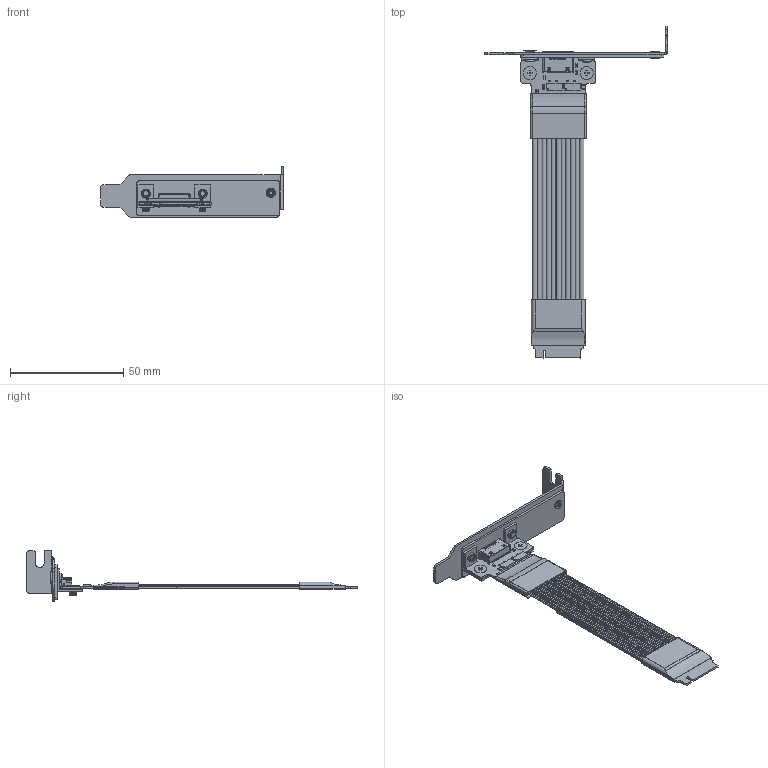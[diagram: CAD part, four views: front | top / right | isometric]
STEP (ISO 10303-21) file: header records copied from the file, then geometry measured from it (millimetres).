
FILE_DESCRIPTION(('Open CASCADE Model'),'2;1');
FILE_NAME('Open CASCADE Shape Model','2025-10-22T09:36:10',('Author'),( 'Open CASCADE'),'Open CASCADE STEP processor 7.5','Open CASCADE 7.5' ,'Unknown');
FILE_SCHEMA(('AUTOMOTIVE_DESIGN { 1 0 10303 214 1 1 1 1 }'));
Length unit declared in the file: millimetre
Products named in the file (301): PCB; Board; Open CASCADE STEP translator 7.5 2.1.1; R1; 0603_RES; Capsule; Encapsulation; TopCover; C14; C0603_060; C13; CN1; OcuLinkĸع; U2; 9392793296; Open CASCADE STEP translator 7.5 4.1; Body; Open CASCADE STEP translator 7.5 4.2.1; ball; U1; R6; R0201 AC0201; R5; R4; R3; R2; D1; User Library-SOD523F; C26; C0201_020; C25; C24; C23; C22; C21; C20; C19; C18; C17; C16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
Assembly tree (443 placements, depth 5):
  PCB
    Board
      Open CASCADE STEP translator 7.5 2.1.1
    R1
      0603_RES
        Capsule
        Encapsulation  x2
        TopCover
    C14
      C0603_060
      C0603_060
      C0603_060
    C13
      C0603_060
      C0603_060
      C0603_060
    CN1
      OcuLinkĸع  x2
      OcuLinkĸع
    U2
      9392793296
        Open CASCADE STEP translator 7.5 4.1
        Body
          Open CASCADE STEP translator 7.5 4.2.1
        ball  x49
    U1
      9392793296
        Open CASCADE STEP translator 7.5 4.1
        Body
          Open CASCADE STEP translator 7.5 4.2.1
        ball  x49
    R6
      R0201 AC0201
      R0201 AC0201
      R0201 AC0201
      R0201 AC0201
    R5
      R0201 AC0201
      R0201 AC0201
      R0201 AC0201
      R0201 AC0201
    R4
      R0201 AC0201
      R0201 AC0201
      R0201 AC0201
      R0201 AC0201
    R3
      R0201 AC0201
      R0201 AC0201
      R0201 AC0201
      R0201 AC0201
    R2
      R0201 AC0201
      R0201 AC0201
      R0201 AC0201
      R0201 AC0201
    D1
      User Library-SOD523F
    C26
      C0201_020
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Bounding box: 80.6 x 146.25 x 22.1 mm (x, y, z)
Volume: 6847.8 mm3; surface area: 35730.4 mm2
Topology: 450 solids, 452 shells, 7735 faces, 18661 edges, 11574 vertices
Faces by surface type: plane 5354, cylinder 1819, sphere 306, bspline 180, cone 43, extrusion 22, torus 11
Full cylindrical faces by diameter (mm): 0.2 x132, 0.254 x176, 0.362 x2, 0.63 x44, 1 x2, 2.356 x8, 2.927 x16, 3 x1, 3.2 x5, 3.3 x3, 4 x5, 4.5 x2
Entity records: 189087 total; most frequent: CARTESIAN_POINT 37402, DIRECTION 22187, ORIENTED_EDGE 21937, EDGE_CURVE 10969, VECTOR 8203, LINE 8181, AXIS2_PLACEMENT_3D 6992, VERTEX_POINT 6928
